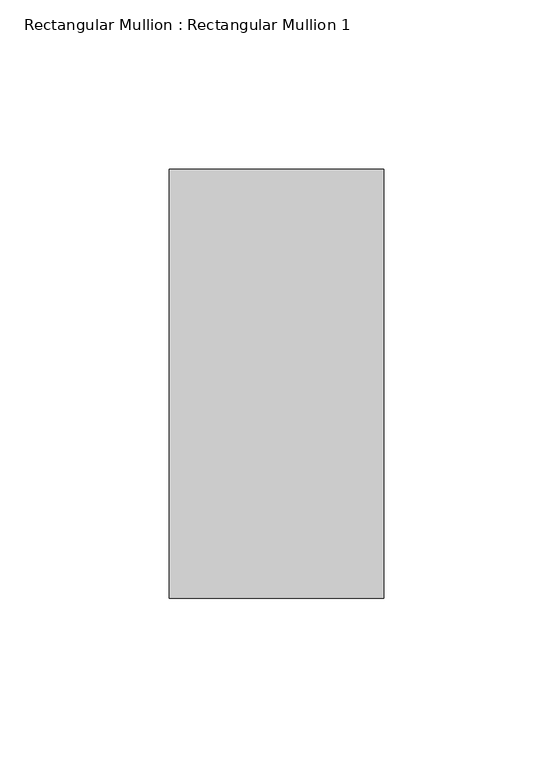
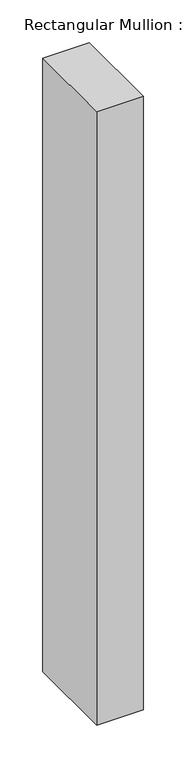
"""IFC4 building model written with IfcOpenShell, lengths in millimetres: member geometry, Rectangular Mullion : Rectangular Mullion 1."""

import ifcopenshell
import ifcopenshell.guid

model = None  # the IFC model being written
_history = None  # IfcOwnerHistory: only IFC2X3 demands one
_inside = {}  # id of a spatial element -> (the spatial element, [elements in it])
_under = {}  # id of a project, library or spatial element -> (it, [spatial elements below it])
_declared = {}  # id of a project -> (the project, [libraries it declares])
_typed = {}  # id of a type object -> (the type object, [elements of that type])
_made_of = {}  # id of a material, layer set ... -> (it, [elements and type objects made of it])


def new_model(schema):
    """Start an empty IFC model of exactly this schema.

    Asked for "IFC4X3", IfcOpenShell would pick the latest addendum, in which some entities
    have other attributes; the version numbers below select the first issue.
    IFC2X3 requires an IfcOwnerHistory on every rooted entity: one is made here for all.
    """
    global model, _history
    if schema == "IFC4X3":
        model = ifcopenshell.file(schema_version=(4, 3, 0, 0))
    else:
        model = ifcopenshell.file(schema=schema)
    _inside.clear()
    _under.clear()
    _declared.clear()
    _typed.clear()
    _made_of.clear()
    _history = None
    if model.schema == "IFC2X3":
        org = make("IfcOrganization", Name="unknown")
        user = make(
            "IfcPersonAndOrganization",
            ThePerson=make("IfcPerson", FamilyName="unknown"),
            TheOrganization=org,
        )
        app = make(
            "IfcApplication",
            ApplicationDeveloper=org,
            Version="unknown",
            ApplicationFullName="unknown",
            ApplicationIdentifier="unknown",
        )
        _history = make(
            "IfcOwnerHistory",
            OwningUser=user,
            OwningApplication=app,
            ChangeAction="ADDED",
            CreationDate=0,
        )
    return model


def make(cls, **values):
    """One entity of the class cls with the attributes given. An attribute that is None is left unset."""
    return model.create_entity(
        cls, **{name: value for name, value in values.items() if value is not None}
    )


def rooted(cls, **values):
    """An entity with a GlobalId (a new one), such as an element, a storey or a relation."""
    return make(cls, GlobalId=ifcopenshell.guid.new(), OwnerHistory=_history, **values)


def si_unit(unit_type, name, prefix=None):
    """IfcSIUnit, for example si_unit("LENGTHUNIT", "METRE", prefix="MILLI")."""
    return make("IfcSIUnit", UnitType=unit_type, Prefix=prefix, Name=name)


def assignment(units):
    """IfcUnitAssignment: the units of a project."""
    return None if units is None else make("IfcUnitAssignment", Units=units)


def point(xyz):
    """IfcCartesianPoint."""
    return None if xyz is None else make("IfcCartesianPoint", Coordinates=xyz)


def direction(xyz):
    """IfcDirection."""
    return None if xyz is None else make("IfcDirection", DirectionRatios=xyz)


def frame(location, z_axis=None, x_axis=None):
    """IfcAxis2Placement3D, a coordinate frame: its origin and axes. An axis left out is left unset."""
    return make(
        "IfcAxis2Placement3D",
        Location=point(location),
        Axis=direction(z_axis),
        RefDirection=direction(x_axis),
    )


def origin():
    """The frame at (0, 0, 0) with its axes left unset."""
    return frame((0.0, 0.0, 0.0))


def place(relative_to, where):
    """IfcLocalPlacement: puts the frame where relative to a parent placement (None: the world)."""
    return make(
        "IfcLocalPlacement", PlacementRelTo=relative_to, RelativePlacement=where
    )


def context(
    kind, dimensions, precision=None, world=None, true_north=None, identifier=None
):
    """IfcGeometricRepresentationContext, for example the 3D "Model" context."""
    return make(
        "IfcGeometricRepresentationContext",
        ContextIdentifier=identifier,
        ContextType=kind,
        CoordinateSpaceDimension=dimensions,
        Precision=precision,
        WorldCoordinateSystem=world,
        TrueNorth=true_north,
    )


def project(units=None, contexts=None):
    """IfcProject with its units and contexts."""
    return rooted(
        "IfcProject",
        Name="project",
        RepresentationContexts=contexts,
        UnitsInContext=assignment(units),
    )


def spatial(cls, under=None, at=None, **own):
    """A site, building, storey or space (cls), placed at a placement, below another one or the project."""
    s = rooted(cls, ObjectPlacement=at, **own)
    if under is not None:
        _under.setdefault(under.id(), (under, []))[1].append(s)
    return s


def polyline(points):
    """IfcPolyline through the points."""
    return make("IfcPolyline", Points=[point(p) for p in points])


def outline(outer, holes=None, kind="AREA"):
    """IfcArbitraryClosedProfileDef: a profile drawn as a closed curve; with holes, ...WithVoids."""
    if holes is None:
        return make("IfcArbitraryClosedProfileDef", ProfileType=kind, OuterCurve=outer)
    return make(
        "IfcArbitraryProfileDefWithVoids",
        ProfileType=kind,
        OuterCurve=outer,
        InnerCurves=holes,
    )


def extrude(swept, where, along, depth):
    """IfcExtrudedAreaSolid: the profile swept, set in the frame where, extruded along a direction by depth."""
    return make(
        "IfcExtrudedAreaSolid",
        SweptArea=swept,
        Position=where,
        ExtrudedDirection=direction(along),
        Depth=depth,
    )


def shape(context_of_items, identifier, shape_type, items):
    """IfcShapeRepresentation: the items that make up one representation, for example the "Body"."""
    return make(
        "IfcShapeRepresentation",
        ContextOfItems=context_of_items,
        RepresentationIdentifier=identifier,
        RepresentationType=shape_type,
        Items=items,
    )


def source(mapping_origin, context_of_items, identifier, shape_type, items):
    """IfcRepresentationMap: a shape defined once, which mapped items show again and again."""
    return make(
        "IfcRepresentationMap",
        MappingOrigin=mapping_origin,
        MappedRepresentation=shape(context_of_items, identifier, shape_type, items),
    )


def transform(
    local_origin,
    x_axis=None,
    y_axis=None,
    z_axis=None,
    scale=None,
    scale2=None,
    scale3=None,
    uniform=True,
):
    """IfcCartesianTransformationOperator3D, or its non-uniform kind. x_axis, y_axis, z_axis: its Axis1, 2, 3."""
    if uniform:
        return make(
            "IfcCartesianTransformationOperator3D",
            Axis1=direction(x_axis),
            Axis2=direction(y_axis),
            LocalOrigin=point(local_origin),
            Scale=scale,
            Axis3=direction(z_axis),
        )
    return make(
        "IfcCartesianTransformationOperator3DnonUniform",
        Axis1=direction(x_axis),
        Axis2=direction(y_axis),
        LocalOrigin=point(local_origin),
        Scale=scale,
        Axis3=direction(z_axis),
        Scale2=scale2,
        Scale3=scale3,
    )


def mapped(mapping_source, mapping_target):
    """IfcMappedItem: shows the shape of a source again, moved by a transform."""
    return make(
        "IfcMappedItem", MappingSource=mapping_source, MappingTarget=mapping_target
    )


def made_of(thing, what):
    """Note that an element or type object is made of a material, layer set ...; save() writes the relation."""
    if what is not None:
        _made_of.setdefault(what.id(), (what, []))[1].append(thing)
    return thing


def element(
    cls,
    number,
    at=None,
    inside=None,
    cuts=None,
    type_object=None,
    material=None,
    context=None,
    identifier="Body",
    shape_type=None,
    held_by="IfcProductDefinitionShape",
    body=None,
    shapes=None,
    **own,
):
    """One element of the class cls, such as IfcWall. Its Tag is "e" and its number.

    at: its placement. inside: the storey or other place that contains it. cuts: it is an
    opening in that element (IfcRelVoidsElement). A single representation is given by context,
    identifier, shape_type and body (its items); several are given by shapes. held_by: the class
    of the entity that holds the representations. save() writes the other relations.
    """
    e = rooted(cls, Tag="e%d" % number, ObjectPlacement=at, **own)
    if body is not None:
        shapes = [shape(context, identifier, shape_type, body)]
    if shapes is not None:
        e.Representation = make(held_by, Representations=shapes)
    if inside is not None:
        _inside.setdefault(inside.id(), (inside, []))[1].append(e)
    if cuts is not None:
        rooted(
            "IfcRelVoidsElement", RelatingBuildingElement=cuts, RelatedOpeningElement=e
        )
    if type_object is not None:
        _typed.setdefault(type_object.id(), (type_object, []))[1].append(e)
    return made_of(e, material)


def aggregate(whole, parts):
    """IfcRelAggregates: a whole, such as a stair, and the parts it consists of."""
    return rooted("IfcRelAggregates", RelatingObject=whole, RelatedObjects=parts)


def save(model, path):
    """Write the relations noted so far, then the file.

    IfcRelAggregates (storeys below a building ...), IfcRelContainedInSpatialStructure (elements
    in a storey), IfcRelDefinesByType, IfcRelAssociatesMaterial and IfcRelDeclares: one each for
    every whole, place, type object, material and project.
    """
    for whole, parts in _under.values():
        aggregate(whole, parts)
    for where, things in _inside.values():
        rooted(
            "IfcRelContainedInSpatialStructure",
            RelatedElements=things,
            RelatingStructure=where,
        )
    for kind, things in _typed.values():
        rooted("IfcRelDefinesByType", RelatedObjects=things, RelatingType=kind)
    for what, things in _made_of.values():
        rooted("IfcRelAssociatesMaterial", RelatedObjects=things, RelatingMaterial=what)
    for by, libraries in _declared.values():
        rooted("IfcRelDeclares", RelatingContext=by, RelatedDefinitions=libraries)
    model.write(path)


def rectangular_mullion_rectangular_mullion_1_266e9da3(model_context):
    return source(origin(), model_context, "Body", "SweptSolid", [
        extrude(outline(polyline([(0.0, 63.5), (0.0, -63.5), (-63.5, -63.5), (-63.5, 63.5), (0.0, 63.5)])), frame((0.0, 0.0, -880.3659605), z_axis=(0.0, 0.0, 1.0), x_axis=(1.0, 0.0, 0.0)), (0.0, 0.0, 1.0), 880.3659605),
    ])


if __name__ == "__main__":
    model = new_model("IFC4")
    model_context = context("Model", 3, world=origin())
    ifc_project = project(units=[si_unit("LENGTHUNIT", "METRE", prefix="MILLI")], contexts=[model_context])
    site = spatial("IfcSite", under=ifc_project)
    building = spatial("IfcBuilding", under=site)
    placement = place(None, origin())
    rectangular_mullion_rectangular_mullion_1_shape = rectangular_mullion_rectangular_mullion_1_266e9da3(model_context)
    element("IfcMember", 1, ObjectType="Rectangular Mullion : Rectangular Mullion 1", at=placement, inside=building, context=model_context, shape_type="MappedRepresentation", body=[
        mapped(rectangular_mullion_rectangular_mullion_1_shape, transform((0.0, 0.0, 0.0), x_axis=(1.0, 0.0, 0.0), y_axis=(0.0, 1.0, 0.0), z_axis=(0.0, 0.0, 1.0))),
    ])
    save(model, "model.ifc")
